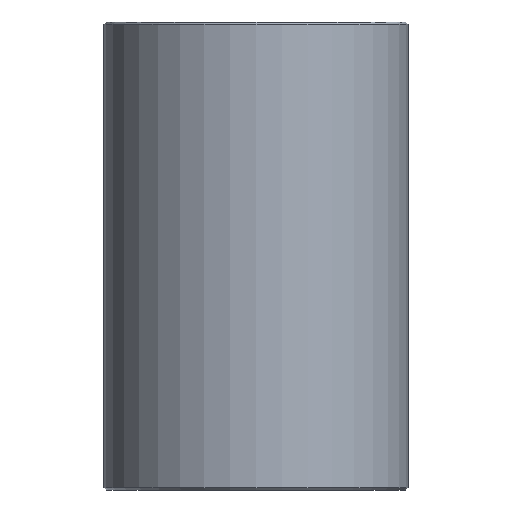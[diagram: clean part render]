
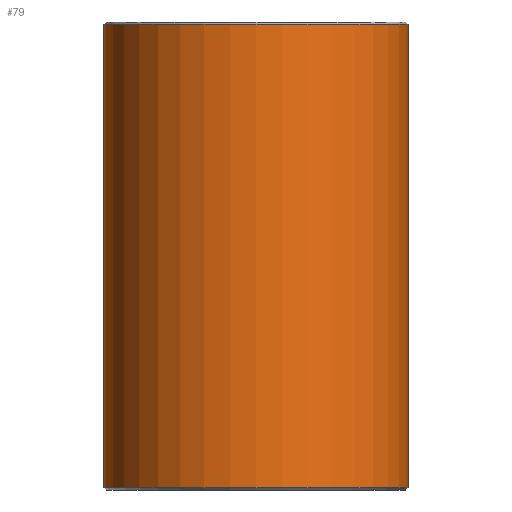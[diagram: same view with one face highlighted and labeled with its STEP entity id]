
A CAD part, front view. The second image highlights one B-rep face of the part: STEP entity #79.
In plain terms, the highlighted cylindrical face has radius 13 mm (diameter 26 mm), a full revolution.
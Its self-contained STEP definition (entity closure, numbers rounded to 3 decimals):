
#79=ADVANCED_FACE('',(#96,#97),#98,.T.);
#96=FACE_OUTER_BOUND('',#120,.T.);
#97=FACE_OUTER_BOUND('',#121,.T.);
#98=CYLINDRICAL_SURFACE('',#122,13.);
#120=EDGE_LOOP('',(#152));
#121=EDGE_LOOP('',(#153));
#122=AXIS2_PLACEMENT_3D('',#154,#155,#156);
#152=ORIENTED_EDGE('',*,*,#178,.T.);
#153=ORIENTED_EDGE('',*,*,#177,.T.);
#154=CARTESIAN_POINT('',(0.0,0.0,40.0));
#155=DIRECTION('',(0.0,0.0,-1.0));
#156=DIRECTION('',(-1.0,0.0,0.0));
#177=EDGE_CURVE('',#190,#190,#191,.T.);
#178=EDGE_CURVE('',#192,#192,#193,.F.);
#190=VERTEX_POINT('',#206);
#191=CIRCLE('',#207,13.);
#192=VERTEX_POINT('',#208);
#193=CIRCLE('',#209,13.);
#206=CARTESIAN_POINT('',(13.,0.0,0.2));
#207=AXIS2_PLACEMENT_3D('',#227,#228,#229);
#208=CARTESIAN_POINT('',(13.,0.,39.8));
#209=AXIS2_PLACEMENT_3D('',#230,#231,#232);
#227=CARTESIAN_POINT('',(0.0,0.0,0.2));
#228=DIRECTION('',(0.0,0.0,1.0));
#229=DIRECTION('',(1.0,0.0,0.0));
#230=CARTESIAN_POINT('',(0.0,0.0,39.8));
#231=DIRECTION('',(0.0,0.0,1.0));
#232=DIRECTION('',(1.0,0.0,0.0));
